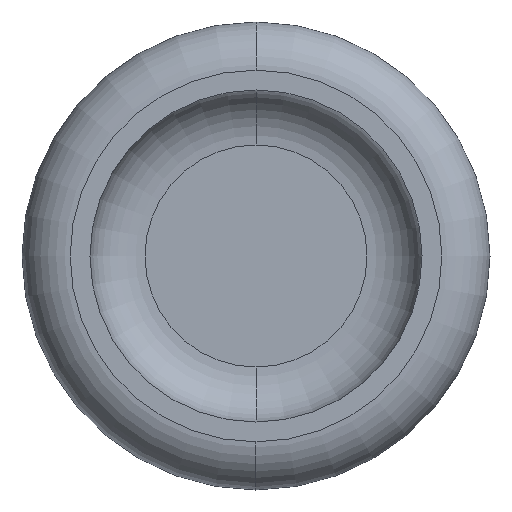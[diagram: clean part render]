
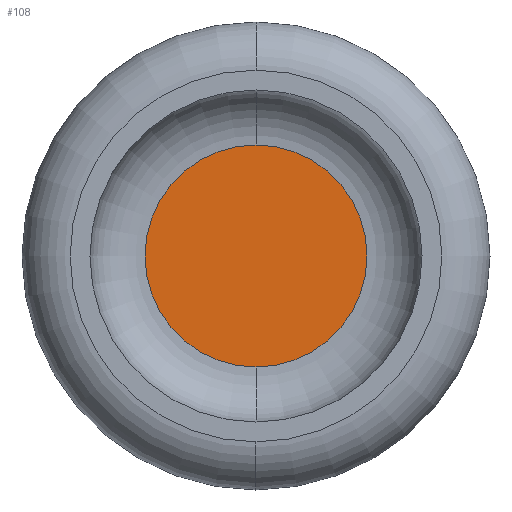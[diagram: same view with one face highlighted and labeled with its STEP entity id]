
A CAD part, left-side view. The second image highlights one B-rep face of the part: STEP entity #108.
In plain terms, the highlighted planar face has unit normal (-1, 0, 0).
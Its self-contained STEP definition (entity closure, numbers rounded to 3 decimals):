
#108=ADVANCED_FACE('',(#232),#233,.F.);
#232=FACE_OUTER_BOUND('',#378,.T.);
#233=PLANE('',#379);
#378=EDGE_LOOP('',(#618,#619));
#379=AXIS2_PLACEMENT_3D('',#620,#621,#622);
#618=ORIENTED_EDGE('',*,*,#887,.T.);
#619=ORIENTED_EDGE('',*,*,#885,.T.);
#620=CARTESIAN_POINT('',(35.2,0.,-3.225));
#621=DIRECTION('',(1.0,0.,0.));
#622=DIRECTION('',(0.,0.,1.0));
#885=EDGE_CURVE('',#1060,#1063,#1065,.T.);
#887=EDGE_CURVE('',#1063,#1060,#1067,.T.);
#1060=VERTEX_POINT('',#1252);
#1063=VERTEX_POINT('',#1255);
#1065=CIRCLE('',#1257,6.45);
#1067=CIRCLE('',#1259,6.45);
#1252=CARTESIAN_POINT('',(35.2,0.,6.45));
#1255=CARTESIAN_POINT('',(35.2,0.,-6.45));
#1257=AXIS2_PLACEMENT_3D('',#1475,#1476,#1477);
#1259=AXIS2_PLACEMENT_3D('',#1478,#1479,#1480);
#1475=CARTESIAN_POINT('',(35.2,0.0,0.0));
#1476=DIRECTION('',(-1.0,0.0,0.0));
#1477=DIRECTION('',(0.0,0.0,-1.0));
#1478=CARTESIAN_POINT('',(35.2,0.0,0.0));
#1479=DIRECTION('',(-1.0,0.0,0.0));
#1480=DIRECTION('',(0.0,0.0,-1.0));
